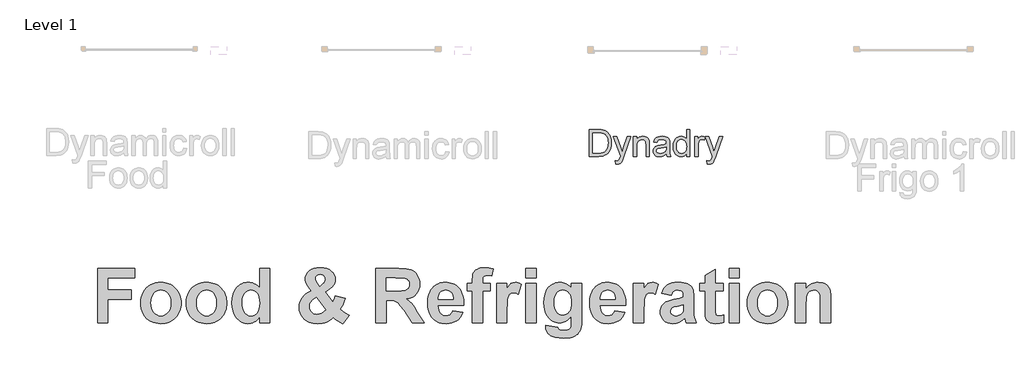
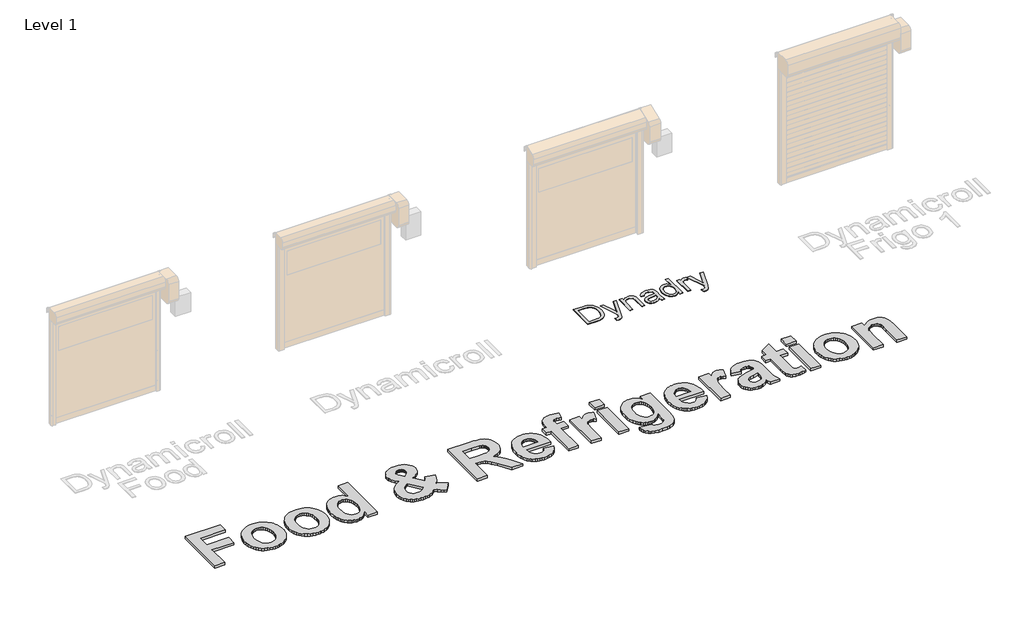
# One storey, part 3 of 17: 2 proxies.
"""IFC4 building model written with IfcOpenShell, lengths in millimetres."""

import ifcopenshell
import ifcopenshell.guid

model = None  # the IFC model being written
_history = None  # IfcOwnerHistory: only IFC2X3 demands one
_inside = {}  # id of a spatial element -> (the spatial element, [elements in it])
_under = {}  # id of a project, library or spatial element -> (it, [spatial elements below it])
_declared = {}  # id of a project -> (the project, [libraries it declares])
_typed = {}  # id of a type object -> (the type object, [elements of that type])
_made_of = {}  # id of a material, layer set ... -> (it, [elements and type objects made of it])


def new_model(schema):
    """Start an empty IFC model of exactly this schema.

    Asked for "IFC4X3", IfcOpenShell would pick the latest addendum, in which some entities
    have other attributes; the version numbers below select the first issue.
    IFC2X3 requires an IfcOwnerHistory on every rooted entity: one is made here for all.
    """
    global model, _history
    if schema == "IFC4X3":
        model = ifcopenshell.file(schema_version=(4, 3, 0, 0))
    else:
        model = ifcopenshell.file(schema=schema)
    _inside.clear()
    _under.clear()
    _declared.clear()
    _typed.clear()
    _made_of.clear()
    _history = None
    if model.schema == "IFC2X3":
        org = make("IfcOrganization", Name="unknown")
        user = make(
            "IfcPersonAndOrganization",
            ThePerson=make("IfcPerson", FamilyName="unknown"),
            TheOrganization=org,
        )
        app = make(
            "IfcApplication",
            ApplicationDeveloper=org,
            Version="unknown",
            ApplicationFullName="unknown",
            ApplicationIdentifier="unknown",
        )
        _history = make(
            "IfcOwnerHistory",
            OwningUser=user,
            OwningApplication=app,
            ChangeAction="ADDED",
            CreationDate=0,
        )
    return model


def make(cls, **values):
    """One entity of the class cls with the attributes given. An attribute that is None is left unset."""
    return model.create_entity(
        cls, **{name: value for name, value in values.items() if value is not None}
    )


def rooted(cls, **values):
    """An entity with a GlobalId (a new one), such as an element, a storey or a relation."""
    return make(cls, GlobalId=ifcopenshell.guid.new(), OwnerHistory=_history, **values)


def si_unit(unit_type, name, prefix=None):
    """IfcSIUnit, for example si_unit("LENGTHUNIT", "METRE", prefix="MILLI")."""
    return make("IfcSIUnit", UnitType=unit_type, Prefix=prefix, Name=name)


def assignment(units):
    """IfcUnitAssignment: the units of a project."""
    return None if units is None else make("IfcUnitAssignment", Units=units)


def point(xyz):
    """IfcCartesianPoint."""
    return None if xyz is None else make("IfcCartesianPoint", Coordinates=xyz)


def direction(xyz):
    """IfcDirection."""
    return None if xyz is None else make("IfcDirection", DirectionRatios=xyz)


def frame(location, z_axis=None, x_axis=None):
    """IfcAxis2Placement3D, a coordinate frame: its origin and axes. An axis left out is left unset."""
    return make(
        "IfcAxis2Placement3D",
        Location=point(location),
        Axis=direction(z_axis),
        RefDirection=direction(x_axis),
    )


def origin():
    """The frame at (0, 0, 0) with its axes left unset."""
    return frame((0.0, 0.0, 0.0))


def origin_with_axes():
    """The frame at (0, 0, 0) with the z axis (0, 0, 1) and the x axis (1, 0, 0) written out."""
    return frame((0.0, 0.0, 0.0), z_axis=(0.0, 0.0, 1.0), x_axis=(1.0, 0.0, 0.0))


def place(relative_to, where):
    """IfcLocalPlacement: puts the frame where relative to a parent placement (None: the world)."""
    return make(
        "IfcLocalPlacement", PlacementRelTo=relative_to, RelativePlacement=where
    )


def context(
    kind, dimensions, precision=None, world=None, true_north=None, identifier=None
):
    """IfcGeometricRepresentationContext, for example the 3D "Model" context."""
    return make(
        "IfcGeometricRepresentationContext",
        ContextIdentifier=identifier,
        ContextType=kind,
        CoordinateSpaceDimension=dimensions,
        Precision=precision,
        WorldCoordinateSystem=world,
        TrueNorth=true_north,
    )


def project(units=None, contexts=None):
    """IfcProject with its units and contexts."""
    return rooted(
        "IfcProject",
        Name="project",
        RepresentationContexts=contexts,
        UnitsInContext=assignment(units),
    )


def spatial(cls, under=None, at=None, **own):
    """A site, building, storey or space (cls), placed at a placement, below another one or the project."""
    s = rooted(cls, ObjectPlacement=at, **own)
    if under is not None:
        _under.setdefault(under.id(), (under, []))[1].append(s)
    return s


def polyline(points):
    """IfcPolyline through the points."""
    return make("IfcPolyline", Points=[point(p) for p in points])


def outline(outer, holes=None, kind="AREA"):
    """IfcArbitraryClosedProfileDef: a profile drawn as a closed curve; with holes, ...WithVoids."""
    if holes is None:
        return make("IfcArbitraryClosedProfileDef", ProfileType=kind, OuterCurve=outer)
    return make(
        "IfcArbitraryProfileDefWithVoids",
        ProfileType=kind,
        OuterCurve=outer,
        InnerCurves=holes,
    )


def extrude(swept, where, along, depth):
    """IfcExtrudedAreaSolid: the profile swept, set in the frame where, extruded along a direction by depth."""
    return make(
        "IfcExtrudedAreaSolid",
        SweptArea=swept,
        Position=where,
        ExtrudedDirection=direction(along),
        Depth=depth,
    )


def shape(context_of_items, identifier, shape_type, items):
    """IfcShapeRepresentation: the items that make up one representation, for example the "Body"."""
    return make(
        "IfcShapeRepresentation",
        ContextOfItems=context_of_items,
        RepresentationIdentifier=identifier,
        RepresentationType=shape_type,
        Items=items,
    )


def made_of(thing, what):
    """Note that an element or type object is made of a material, layer set ...; save() writes the relation."""
    if what is not None:
        _made_of.setdefault(what.id(), (what, []))[1].append(thing)
    return thing


def element(
    cls,
    number,
    at=None,
    inside=None,
    cuts=None,
    type_object=None,
    material=None,
    context=None,
    identifier="Body",
    shape_type=None,
    held_by="IfcProductDefinitionShape",
    body=None,
    shapes=None,
    **own,
):
    """One element of the class cls, such as IfcWall. Its Tag is "e" and its number.

    at: its placement. inside: the storey or other place that contains it. cuts: it is an
    opening in that element (IfcRelVoidsElement). A single representation is given by context,
    identifier, shape_type and body (its items); several are given by shapes. held_by: the class
    of the entity that holds the representations. save() writes the other relations.
    """
    e = rooted(cls, Tag="e%d" % number, ObjectPlacement=at, **own)
    if body is not None:
        shapes = [shape(context, identifier, shape_type, body)]
    if shapes is not None:
        e.Representation = make(held_by, Representations=shapes)
    if inside is not None:
        _inside.setdefault(inside.id(), (inside, []))[1].append(e)
    if cuts is not None:
        rooted(
            "IfcRelVoidsElement", RelatingBuildingElement=cuts, RelatedOpeningElement=e
        )
    if type_object is not None:
        _typed.setdefault(type_object.id(), (type_object, []))[1].append(e)
    return made_of(e, material)


def aggregate(whole, parts):
    """IfcRelAggregates: a whole, such as a stair, and the parts it consists of."""
    return rooted("IfcRelAggregates", RelatingObject=whole, RelatedObjects=parts)


def save(model, path):
    """Write the relations noted so far, then the file.

    IfcRelAggregates (storeys below a building ...), IfcRelContainedInSpatialStructure (elements
    in a storey), IfcRelDefinesByType, IfcRelAssociatesMaterial and IfcRelDeclares: one each for
    every whole, place, type object, material and project.
    """
    for whole, parts in _under.values():
        aggregate(whole, parts)
    for where, things in _inside.values():
        rooted(
            "IfcRelContainedInSpatialStructure",
            RelatedElements=things,
            RelatingStructure=where,
        )
    for kind, things in _typed.values():
        rooted("IfcRelDefinesByType", RelatedObjects=things, RelatingType=kind)
    for what, things in _made_of.values():
        rooted("IfcRelAssociatesMaterial", RelatedObjects=things, RelatingMaterial=what)
    for by, libraries in _declared.values():
        rooted("IfcRelDeclares", RelatingContext=by, RelatedDefinitions=libraries)
    model.write(path)


model = new_model("IFC4")

# Units and contexts
model_context = context("Model", 3, world=origin())
ifc_project = project(units=[si_unit("LENGTHUNIT", "METRE", prefix="MILLI")], contexts=[model_context])

# Site, building, storey
site = spatial("IfcSite", under=ifc_project)
building = spatial("IfcBuilding", under=site)
storey = spatial("IfcBuildingStorey", under=building, Name="Level 1", Elevation=0.0)

# Proxies
placement = place(None, origin())
element("IfcBuildingElementProxy", 1, Name="1000", ObjectType="1000", at=placement, inside=storey, context=model_context, shape_type="SweptSolid", body=[
    extrude(outline(polyline([(1161.4690724, 4455.5744837), (1161.4690724, 5475.8338837), (1857.8365994, 5475.8338837), (1857.8365994, 5297.6933535), (1355.8041962, 5297.6933535), (1355.8041962, 5070.9690424), (1793.0582248, 5070.9690424), (1793.0582248, 4892.8285123), (1355.8041962, 4892.8285123), (1355.8041962, 4455.5744837), (1161.4690724, 4455.5744837)])), origin_with_axes(), (0.0, 0.0, 1.0), 50.0),
    extrude(outline(polyline([(1971.1987549, 4838.6778397), (1974.1957037, 4887.2537132), (1983.1865498, 4935.05465), (1998.1712935, 4982.0806502), (2019.1499346, 5028.3317138), (2045.6163921, 5071.483031), (2077.0645849, 5109.2097919), (2113.4945131, 5141.5119965), (2154.9061766, 5168.3896448), (2200.0897255, 5189.5343438), (2247.8353097, 5204.6377002), (2298.1429293, 5213.699714), (2351.0125841, 5216.7203853), (2391.943866, 5215.008408), (2430.9812978, 5209.872476), (2468.1248793, 5201.3125895), (2503.3746107, 5189.3287483), (2536.7304919, 5173.9209526), (2568.1925229, 5155.0892022), (2597.7607037, 5132.8334972), (2625.4350343, 5107.1538376), (2650.491977, 5078.85679), (2672.207994, 5048.7489212), (2690.5830853, 5016.8302312), (2705.6172509, 4983.1007198), (2717.3104909, 4947.5603872), (2725.6628051, 4910.2092334), (2730.6741936, 4871.0472582), (2732.3446565, 4830.0744619), (2730.6564017, 4788.7833879), (2725.5916374, 4749.2991815), (2717.1503637, 4711.6218426), (2705.3325804, 4675.7513712), (2690.1382875, 4641.6877673), (2671.5674852, 4609.4310309), (2649.6201733, 4578.981162), (2624.296352, 4550.3381606), (2596.414449, 4524.3323159), (2566.7928925, 4501.7939172), (2535.4316823, 4482.7229645), (2502.3308185, 4467.1194577), (2467.4903011, 4454.9833969), (2430.9101301, 4446.314782), (2392.5903055, 4441.113613), (2352.5308273, 4439.3798901), (2302.3892656, 4442.2661336), (2253.4338314, 4450.924864), (2205.6645246, 4465.3560815), (2159.0813453, 4485.559786), (2115.8430455, 4511.3461971), (2078.1083771, 4542.5255344), (2045.8773401, 4579.0977979), (2019.1499346, 4621.0629876), (1998.1712935, 4668.1601554), (1983.1865498, 4720.1283534), (1974.1957037, 4776.9675815), (1971.1987549, 4838.6778397)]), holes=[polyline([(2165.5338787, 4828.0501377), (2168.8945732, 4772.6579851), (2178.9766567, 4724.1453718), (2195.7801291, 4682.5122977), (2219.3049905, 4647.758763), (2247.7641421, 4620.3592186), (2279.3704853, 4600.7881154), (2314.12402, 4589.0454535), (2352.0247462, 4585.1312329), (2389.9096574, 4589.0454535), (2424.6157471, 4600.7881154), (2456.1430151, 4620.3592186), (2484.4914615, 4647.758763), (2507.9056176, 4682.6071879), (2524.6300149, 4724.5249325), (2534.6646532, 4773.5119968), (2538.0095327, 4829.5683808), (2534.6646532, 4884.296302), (2524.6300149, 4932.3344643), (2507.9056176, 4973.6828678), (2484.4914615, 5008.3415123), (2456.1430151, 5035.7410567), (2424.6157471, 5055.3121599), (2389.9096574, 5067.0548218), (2352.0247462, 5070.9690424), (2314.12402, 5067.0548218), (2279.3704853, 5055.3121599), (2247.7641421, 5035.7410567), (2219.3049905, 5008.3415123), (2195.7801291, 4973.5879776), (2178.9766567, 4931.9549036), (2168.8945732, 4883.4422903), (2165.5338787, 4828.0501377)])]), origin_with_axes(), (0.0, 0.0, 1.0), 50.0),
    extrude(outline(polyline([(2829.5122184, 4838.6778397), (2832.5091671, 4887.2537132), (2841.5000133, 4935.05465), (2856.4847569, 4982.0806502), (2877.463398, 5028.3317138), (2903.9298555, 5071.483031), (2935.3780484, 5109.2097919), (2971.8079766, 5141.5119965), (3013.2196401, 5168.3896448), (3058.403189, 5189.5343438), (3106.1487732, 5204.6377002), (3156.4563927, 5213.699714), (3209.3260476, 5216.7203853), (3250.2573295, 5215.008408), (3289.2947612, 5209.872476), (3326.4383428, 5201.3125895), (3361.6880742, 5189.3287483), (3395.0439554, 5173.9209526), (3426.5059864, 5155.0892022), (3456.0741672, 5132.8334972), (3483.7484978, 5107.1538376), (3508.8054405, 5078.85679), (3530.5214575, 5048.7489212), (3548.8965488, 5016.8302312), (3563.9307144, 4983.1007198), (3575.6239543, 4947.5603872), (3583.9762686, 4910.2092334), (3588.9876571, 4871.0472582), (3590.6581199, 4830.0744619), (3588.9698652, 4788.7833879), (3583.9051009, 4749.2991815), (3575.4638271, 4711.6218426), (3563.6460438, 4675.7513712), (3548.451751, 4641.6877673), (3529.8809486, 4609.4310309), (3507.9336368, 4578.981162), (3482.6098154, 4550.3381606), (3454.7279125, 4524.3323159), (3425.1063559, 4501.7939172), (3393.7451458, 4482.7229645), (3360.644282, 4467.1194577), (3325.8037646, 4454.9833969), (3289.2235936, 4446.314782), (3250.903769, 4441.113613), (3210.8442907, 4439.3798901), (3160.702729, 4442.2661336), (3111.7472948, 4450.924864), (3063.9779881, 4465.3560815), (3017.3948088, 4485.559786), (2974.1565089, 4511.3461971), (2936.4218405, 4542.5255344), (2904.1908036, 4579.0977979), (2877.463398, 4621.0629876), (2856.4847569, 4668.1601554), (2841.5000133, 4720.1283534), (2832.5091671, 4776.9675815), (2829.5122184, 4838.6778397)]), holes=[polyline([(3023.8473422, 4828.0501377), (3027.2080367, 4772.6579851), (3037.2901201, 4724.1453718), (3054.0935925, 4682.5122977), (3077.6184539, 4647.758763), (3106.0776055, 4620.3592186), (3137.6839487, 4600.7881154), (3172.4374834, 4589.0454535), (3210.3382097, 4585.1312329), (3248.2231209, 4589.0454535), (3282.9292105, 4600.7881154), (3314.4564785, 4620.3592186), (3342.8049249, 4647.758763), (3366.2190811, 4682.6071879), (3382.9434783, 4724.5249325), (3392.9781167, 4773.5119968), (3396.3229961, 4829.5683808), (3392.9781167, 4884.296302), (3382.9434783, 4932.3344643), (3366.2190811, 4973.6828678), (3342.8049249, 5008.3415123), (3314.4564785, 5035.7410567), (3282.9292105, 5055.3121599), (3248.2231209, 5067.0548218), (3210.3382097, 5070.9690424), (3172.4374834, 5067.0548218), (3137.6839487, 5055.3121599), (3106.0776055, 5035.7410567), (3077.6184539, 5008.3415123), (3054.0935925, 4973.5879776), (3037.2901201, 4931.9549036), (3027.2080367, 4883.4422903), (3023.8473422, 4828.0501377)])]), origin_with_axes(), (0.0, 0.0, 1.0), 50.0),
    extrude(outline(polyline([(4400.3878024, 4455.5744837), (4206.0526786, 4455.5744837), (4206.0526786, 4562.8636666), (4183.3185689, 4533.6137634), (4158.6392101, 4508.3650634), (4132.0146023, 4487.1175667), (4103.4447454, 4469.8712734), (4073.8469114, 4456.5312932), (4044.1383722, 4447.0027359), (4014.3191277, 4441.2856015), (3984.3891781, 4439.3798901), (3954.3821301, 4440.9930234), (3925.4702731, 4445.8324235), (3897.6536072, 4453.8980902), (3870.9321323, 4465.1900237), (3845.3058484, 4479.7082239), (3820.7747556, 4497.4526907), (3774.998143, 4542.6204246), (3754.5670974, 4569.7076221), (3736.8601912, 4599.3489474), (3721.8774245, 4631.5444006), (3709.6187971, 4666.2939816), (3700.0843092, 4703.5976903), (3693.2739607, 4743.4555269), (3687.8256818, 4830.8335834), (3693.2660531, 4919.6824381), (3700.0665173, 4959.860529), (3709.5871671, 4997.2077291), (3721.8280025, 5031.7240384), (3736.7890236, 5063.4094567), (3754.4702303, 5092.2639842), (3774.8716227, 5118.2876207), (3797.3526919, 5141.3577999), (3821.2729291, 5161.3519552), (3846.6323343, 5178.2700866), (3873.4309075, 5192.1121941), (3901.6686487, 5202.8782777), (3931.3455578, 5210.5683375), (3962.461635, 5215.1823733), (3995.0168801, 5216.7203853), (4024.9942749, 5215.1270207), (4053.9436926, 5210.346927), (4081.8651331, 5202.3801042), (4108.7585965, 5191.2265523), (4134.6240827, 5176.8862712), (4159.4615918, 5159.3592611), (4206.0526786, 5114.7450534), (4206.0526786, 5475.8338837), (4400.3878024, 5475.8338837), (4400.3878024, 4455.5744837)]), holes=[polyline([(3882.1608056, 4842.2204071), (3884.1851298, 4785.0965084), (3890.2581025, 4736.4494673), (3900.3797235, 4696.2792839), (3914.5499929, 4664.585958), (3940.2810514, 4629.8245158), (3970.6617295, 4604.9949142), (4005.6920273, 4590.0971532), (4045.3719448, 4585.1312329), (4077.6346118, 4588.8556731), (4107.3668736, 4600.0289939), (4134.5687301, 4618.6511951), (4159.2401814, 4644.7222767), (4179.7206489, 4678.1947938), (4194.3495543, 4719.0213011), (4203.1268976, 4767.2017987), (4206.0526786, 4822.7362866), (4203.2138802, 4884.1539667), (4194.697485, 4936.3198526), (4180.5034931, 4979.2339443), (4160.6319043, 5012.8962417), (4136.3162912, 5038.303092), (4108.7902265, 5056.4508422), (4078.0537102, 5067.3394924), (4044.1067421, 5070.9690424), (4011.0849535, 5067.3790299), (3980.8466107, 5056.6089926), (3953.3917136, 5038.6589303), (3928.7202624, 5013.5288431), (3908.3505001, 4981.2819911), (3893.8006698, 4941.9816344), (3885.0707717, 4895.6277731), (3882.1608056, 4842.2204071)])]), origin_with_axes(), (0.0, 0.0, 1.0), 50.0),
    extrude(outline(polyline([(5890.2904183, 4596.7710971), (5767.3127227, 4439.3798901), (5721.6072778, 4463.1815145), (5676.8507348, 4491.0634174), (5633.0430937, 4523.0255989), (5590.1843547, 4559.0680587), (5559.6138962, 4530.3479591), (5528.1261657, 4505.6765078), (5495.7211634, 4485.053705), (5462.3988892, 4468.4795505), (5427.0206606, 4455.7484491), (5388.4477955, 4446.6548052), (5346.6802937, 4441.1986188), (5301.7181553, 4439.3798901), (5256.8509071, 4441.0800061), (5214.8619948, 4446.1803542), (5175.7514185, 4454.6809343), (5139.5191783, 4466.5817466), (5106.1652739, 4481.8827909), (5075.6897056, 4500.5840672), (5048.0924733, 4522.6855757), (5023.3735769, 4548.1873161), (4991.7118811, 4591.900067), (4969.0963841, 4638.7758244), (4955.5270859, 4688.8145883), (4951.0039865, 4742.0163589), (4954.5386464, 4790.6080474), (4965.1426259, 4836.6851456), (4982.8159251, 4880.2476536), (5007.5585441, 4921.2955714), (5039.3388526, 4959.7814539), (5078.1252207, 4995.6578559), (5123.9176483, 5028.9247775), (5176.7161355, 5059.5822187), (5127.7211637, 5118.3508809), (5092.5801607, 5174.2095769), (5071.4196468, 5227.1583069), (5066.1295183, 5252.5414347), (5064.3661421, 5277.1970709), (5068.9999467, 5320.4037407), (5082.9013606, 5360.1943634), (5106.0703838, 5396.568939), (5138.5070161, 5429.5274674), (5179.5153964, 5456.8716593), (5228.3996629, 5476.4032248), (5285.1598159, 5488.1221642), (5349.7958552, 5492.0284773), (5412.3522177, 5487.9719214), (5467.6811101, 5475.8022536), (5515.7825326, 5455.519474), (5556.656485, 5427.1235824), (5589.2591753, 5392.8761288), (5612.5468111, 5355.0386627), (5626.5193927, 5313.6111841), (5631.1769198, 5268.593693), (5628.7809424, 5239.1223793), (5621.5930099, 5210.4260022), (5609.6131225, 5182.5045617), (5592.8412802, 5155.3580578), (5568.7787077, 5127.7212878), (5534.9266299, 5098.3290493), (5491.2850467, 5067.181342), (5437.8539582, 5034.2781662), (5581.5809768, 4845.0038529), (5608.150232, 4895.8017384), (5630.6708388, 4960.1372921), (5814.3782605, 4919.650808), (5788.631387, 4839.5002214), (5766.5536011, 4784.2741267), (5745.5512375, 4744.9895851), (5723.0306307, 4712.6636579), (5761.9672416, 4680.5275111), (5810.9622134, 4645.354878), (5890.2904183, 4596.7710971)]), holes=[polyline([(5339.6742341, 5145.1099165), (5385.7276098, 5184.837279), (5408.0900663, 5207.0732152), (5424.0632495, 5229.2458913), (5433.6471594, 5251.3553072), (5436.841796, 5273.401463), (5435.2998303, 5291.193375), (5430.6739332, 5307.6251941), (5422.9641047, 5322.6969205), (5412.1703448, 5336.408554), (5398.7671044, 5347.8111926), (5383.2288346, 5355.9559346), (5365.5555354, 5360.8427797), (5345.7472068, 5362.4717281), (5326.4765892, 5361.0325601), (5309.4042613, 5356.7150561), (5294.5302228, 5349.5192162), (5281.854474, 5339.4450403), (5264.4895679, 5314.6470687), (5258.7012659, 5286.3065298), (5261.136781, 5267.5340858), (5268.4433261, 5246.895468), (5297.6695069, 5200.0197106), (5339.6742341, 5145.1099165)]), polyline([(5270.3411301, 4934.074118), (5240.940984, 4916.527339), (5215.4945961, 4897.2883515), (5194.0019665, 4876.3571555), (5176.463095, 4853.733751), (5162.8463517, 4830.1298145), (5153.1201065, 4806.2570224), (5147.2843594, 4782.1153747), (5145.3391103, 4757.7048715), (5147.7034578, 4728.1386676), (5154.7965, 4701.4349846), (5166.6182371, 4677.5938225), (5183.168669, 4656.6151814), (5203.6886741, 4639.5112234), (5227.4191309, 4627.2941105), (5254.3600394, 4619.9638428), (5284.5113995, 4617.5204202), (5325.5039647, 4621.9802595), (5364.9782867, 4635.3597773), (5405.4647709, 4658.9874364), (5449.4938223, 4694.1916995), (5270.3411301, 4934.074118)])]), origin_with_axes(), (0.0, 0.0, 1.0), 50.0),
    extrude(outline(polyline([(6392.3228214, 4455.5744837), (6392.3228214, 5475.8338837), (6821.4795531, 5475.8338837), (6896.9172599, 5474.1100451), (6961.2844436, 5468.9385293), (7014.5811044, 5460.3193364), (7056.8072421, 5448.2524664), (7091.6635745, 5431.7732021), (7122.8508193, 5409.9168267), (7150.3689765, 5382.6833401), (7174.2180461, 5350.0727423), (7193.4807561, 5313.4925713), (7207.2398347, 5274.350365), (7215.4952818, 5232.6461234), (7218.2470976, 5188.3798464), (7214.2696168, 5133.2011967), (7202.3371745, 5083.0517275), (7182.4497707, 5037.9314388), (7154.6074053, 4997.8403305), (7118.8417085, 4963.7431196), (7075.1843103, 4936.6045232), (7023.6352107, 4916.4245413), (6964.1944097, 4903.2031738), (7020.5591868, 4862.5901694), (7066.1697416, 4818.1815572), (7113.3617996, 4753.8460035), (7174.4710866, 4653.4521749), (7299.2200658, 4455.5744837), (7072.2427142, 4455.5744837), (6924.4670471, 4688.624808), (6853.0779888, 4778.1062639), (6808.4479661, 4826.9114553), (6776.2485591, 4850.9186752), (6742.1513483, 4866.0062165), (6696.8887242, 4873.9769931), (6631.1930777, 4876.6339186), (6586.6579452, 4876.6339186), (6586.6579452, 4455.5744837), (6392.3228214, 4455.5744837)]), holes=[polyline([(6586.6579452, 5054.7744488), (6746.832598, 5054.7744488), (6873.2579707, 5057.7160449), (6914.5747441, 5061.39304), (6941.2942421, 5066.5408332), (6975.897534, 5082.5456465), (7002.0239683, 5107.0273173), (7011.5999707, 5122.2809165), (7018.4399724, 5139.3216144), (7023.9119738, 5178.7643064), (7022.10906, 5201.7672717), (7016.7003188, 5222.4454272), (7007.68575, 5240.7987728), (6995.0653538, 5256.8273086), (6979.1554308, 5270.3254391), (6960.2722815, 5281.087569), (6938.4159061, 5289.1136982), (6913.5863045, 5294.4038267), (6755.6890164, 5297.6933535), (6586.6579452, 5297.6933535), (6586.6579452, 5054.7744488)])]), origin_with_axes(), (0.0, 0.0, 1.0), 50.0),
    extrude(outline(polyline([(7833.6416563, 4682.2987948), (8027.9767801, 4649.9096075), (8006.9744164, 4601.4918844), (7980.6582017, 4559.2262091), (7949.028136, 4523.1125815), (7912.0842193, 4493.1510018), (7870.0004168, 4469.6261404), (7822.950694, 4452.822668), (7770.935051, 4442.7405845), (7713.9534876, 4439.3798901), (7668.4180542, 4441.3607229), (7625.9428297, 4447.3032215), (7586.527814, 4457.2073858), (7550.1730073, 4471.0732159), (7516.8784093, 4488.9007117), (7486.6440203, 4510.6898732), (7459.46984, 4536.4407005), (7435.3558687, 4566.1531935), (7404.1369938, 4620.2247908), (7381.8377975, 4680.970332), (7368.4582797, 4748.3898171), (7363.9984404, 4822.4832461), (7369.9132627, 4909.8454876), (7377.3067906, 4949.7784456), (7387.6577296, 4987.2126284), (7400.9660797, 5022.148036), (7417.231841, 5054.5846684), (7436.4550135, 5084.5225256), (7458.6355971, 5111.9616076), (7483.0777303, 5136.5144461), (7509.0855519, 5157.7935728), (7536.6590617, 5175.7989877), (7565.7982597, 5190.5306908), (7596.503146, 5201.9886821), (7628.7737206, 5210.1729617), (7662.6099834, 5215.0835294), (7698.0119344, 5216.7203853), (7737.5534704, 5215.040038), (7774.9520693, 5209.9989963), (7810.2077313, 5201.5972601), (7843.3204564, 5189.8348294), (7874.2902445, 5174.7117042), (7903.1170956, 5156.2278846), (7929.8010098, 5134.3833704), (7954.3419871, 5109.1781618), (7976.2813914, 5080.5015535), (7995.1605869, 5048.2428402), (8010.9795735, 5012.402022), (8023.7383513, 4972.9790988), (8033.4369202, 4929.9740707), (8040.0752802, 4883.3869376), (8043.6534314, 4833.2176996), (8044.1713737, 4779.4663567), (7558.3335642, 4779.4663567), (7561.9552067, 4735.9750163), (7570.7958101, 4697.6077466), (7584.8553743, 4664.3645475), (7604.1338994, 4636.2454191), (7627.3661827, 4613.8829626), (7653.2870215, 4597.9097795), (7681.896416, 4588.3258695), (7713.194366, 4585.1312329), (7753.9971508, 4590.8879049), (7771.7890627, 4598.0837448), (7787.8413211, 4608.1579208), (7802.0906657, 4621.4267333), (7814.4738364, 4638.2064832), (7833.6416563, 4682.2987948)]), holes=[polyline([(7849.8362499, 4892.8285123), (7846.3727577, 4933.860615), (7838.0066053, 4969.6579419), (7824.7377928, 5000.2204929), (7806.56632, 5025.548268), (7784.8364649, 5045.4198568), (7760.8925051, 5059.6138488), (7734.7344407, 5068.130244), (7706.3622718, 5070.9690424), (7676.2188192, 5067.9800012), (7648.7955522, 5059.0128776), (7624.0924709, 5044.0676715), (7602.1095752, 5023.144383), (7584.206958, 4996.9705036), (7571.4916716, 4966.5265654), (7563.9637159, 4931.8125683), (7561.623091, 4892.8285123), (7849.8362499, 4892.8285123)])]), origin_with_axes(), (0.0, 0.0, 1.0), 50.0),
    extrude(outline(polyline([(8108.9497483, 5200.5257916), (8206.1173102, 5200.5257916), (8206.1173102, 5254.9295047), (8211.0516005, 5334.4474899), (8217.2194633, 5365.5240295), (8225.8544712, 5390.812267), (8237.794821, 5412.1704689), (8253.8787095, 5431.4569015), (8274.1061365, 5448.6715647), (8298.4771021, 5463.8144587), (8326.6753057, 5476.1580918), (8358.3844466, 5484.9749727), (8393.6045248, 5490.2651011), (8432.3355403, 5492.0284773), (8514.4471909, 5485.9555047), (8594.7875578, 5467.7365868), (8570.4956673, 5335.3963919), (8524.5055518, 5343.5569488), (8480.1601996, 5346.2771345), (8443.6274737, 5341.4061043), (8429.8446726, 5335.3173167), (8419.0509127, 5326.793014), (8410.9140783, 5314.8052191), (8405.1020537, 5298.3259548), (8400.452434, 5251.8930183), (8400.452434, 5200.5257916), (8546.2037769, 5200.5257916), (8546.2037769, 5054.7744488), (8400.452434, 5054.7744488), (8400.452434, 4455.5744837), (8206.1173102, 4455.5744837), (8206.1173102, 5054.7744488), (8108.9497483, 5054.7744488), (8108.9497483, 5200.5257916)])), origin_with_axes(), (0.0, 0.0, 1.0), 50.0),
    extrude(outline(polyline([(8853.9010562, 4455.5744837), (8659.5659324, 4455.5744837), (8659.5659324, 5200.5257916), (8853.9010562, 5200.5257916), (8853.9010562, 5096.779176), (8894.9568815, 5157.7935728), (8913.8242157, 5178.835474), (8931.5844976, 5193.5671772), (8968.4018941, 5210.9320832), (9010.0270606, 5216.7203853), (9040.6291492, 5214.1583499), (9070.6935267, 5206.472244), (9100.220193, 5193.6620673), (9129.2091483, 5175.7278201), (9072.5280705, 4990.7551957), (9025.7155732, 5014.477745), (9003.6377874, 5020.4083824), (8982.4456433, 5022.3852615), (8945.0905357, 5016.85), (8928.7615143, 5009.9309231), (8913.9981811, 5000.2442155), (8900.7609986, 4986.9516803), (8889.0104292, 4969.215121), (8869.9691296, 4920.4099296), (8862.9393475, 4883.6557932), (8857.9180746, 4831.086624), (8853.9010562, 4678.5031869), (8853.9010562, 4455.5744837)])), origin_with_axes(), (0.0, 0.0, 1.0), 50.0),
    extrude(outline(polyline([(9210.1821165, 5297.6933535), (9210.1821165, 5475.8338837), (9404.5172403, 5475.8338837), (9404.5172403, 5297.6933535), (9210.1821165, 5297.6933535)])), origin_with_axes(), (0.0, 0.0, 1.0), 50.0),
    extrude(outline(polyline([(9210.1821165, 4455.5744837), (9210.1821165, 5200.5257916), (9404.5172403, 5200.5257916), (9404.5172403, 4455.5744837), (9210.1821165, 4455.5744837)])), origin_with_axes(), (0.0, 0.0, 1.0), 50.0),
    extrude(outline(polyline([(9582.6577705, 4406.9907028), (9809.3820816, 4374.6015155), (9818.0487196, 4346.007936), (9833.4209315, 4328.0420587), (9848.4293977, 4320.0712821), (9867.1385816, 4314.3778703), (9915.6591024, 4309.8231409), (9949.3451224, 4311.2623088), (9978.5396731, 4315.5798128), (10003.2427544, 4322.7756528), (10023.4543664, 4332.8498287), (10044.5832503, 4353.0298106), (10059.8922021, 4382.6988123), (10066.3447355, 4417.6184048), (10068.49558, 4473.2873205), (10068.49558, 4581.8417061), (10043.9466952, 4552.2478258), (10018.3777408, 4526.5997963), (9991.7887168, 4504.8976174), (9964.1796232, 4487.1412893), (9935.55046, 4473.3308118), (9905.9012271, 4463.4661851), (9875.2319247, 4457.5474091), (9843.5425526, 4455.5744837), (9808.5478386, 4457.5553166), (9775.427206, 4463.4978152), (9744.1806548, 4473.4019795), (9714.8081851, 4487.2678096), (9687.3097967, 4505.0953054), (9661.6854897, 4526.8844669), (9637.9352641, 4552.6352941), (9616.0591199, 4582.3477871), (9587.2757601, 4635.5179276), (9566.7162174, 4694.8243008), (9554.3804917, 4760.2669068), (9550.2685832, 4831.8457455), (9555.6536019, 4919.9433861), (9562.3848752, 4959.8466909), (9571.8086579, 4996.9863187), (9583.92495, 5031.3622695), (9598.7337514, 5062.9745433), (9616.2350621, 5091.8231401), (9636.4288822, 5117.9080599), (9682.1422347, 5161.1384523), (9706.9738132, 5178.1218207), (9733.1219931, 5192.0173039), (9760.5867746, 5202.824902), (9789.3681575, 5210.5446149), (9819.4661419, 5215.1764427), (9850.8807278, 5216.7203853), (9883.1750249, 5214.8897952), (9914.014339, 5209.398025), (9943.39867, 5200.2450748), (9971.3280181, 5187.4309444), (9997.8023831, 5170.9556339), (10022.8217651, 5150.8191433), (10046.386164, 5127.0214726), (10068.49558, 5099.5626218), (10068.49558, 5200.5257916), (10262.8307038, 5200.5257916), (10262.8307038, 4538.8248167), (10257.5484828, 4424.92495), (10250.9457066, 4380.2870198), (10241.7018199, 4343.8570916), (10230.0777707, 4313.2787255), (10216.3345072, 4286.1954818), (10200.4720292, 4262.6073602), (10182.4903368, 4242.514361), (10161.851719, 4225.1573624), (10138.0184644, 4209.777243), (10080.7680455, 4184.9476414), (10046.8368925, 4175.8144599), (10008.6831257, 4169.2907588), (9919.7077508, 4164.071798), (9834.4172786, 4167.9622961), (9762.5063242, 4179.6337903), (9703.9748876, 4199.0862808), (9679.7264884, 4211.7303995), (9658.8229687, 4226.3197673), (9625.1685788, 4259.5313364), (9601.1297289, 4296.918074), (9586.7064189, 4338.4799804), (9581.8986489, 4384.2170554), (9582.6577705, 4406.9907028)]), holes=[polyline([(9744.603707, 4839.1839208), (9747.4108753, 4781.5855711), (9755.8323803, 4732.2742986), (9769.868222, 4691.2501034), (9789.5184003, 4658.5129854), (9813.2963022, 4633.4936034), (9839.7153146, 4615.6226163), (9868.7754375, 4604.900024), (9900.4766709, 4601.3258266), (9934.4078239, 4604.9949142), (9965.6029762, 4616.0021771), (9994.0621278, 4634.3476152), (10019.7852788, 4660.0312285), (10041.0960355, 4692.9106819), (10056.3180047, 4732.8436398), (10065.4511862, 4779.8301025), (10068.49558, 4833.8700697), (10065.5777064, 4890.2111243), (10056.8240857, 4938.7869978), (10042.2347179, 4979.5976901), (10021.809603, 5012.6432012), (9996.9246488, 5038.1607567), (9968.9557631, 5056.3875821), (9937.9029461, 5067.3236773), (9903.7661977, 5070.9690424), (9870.6257963, 5067.394845), (9840.5376963, 5056.6722527), (9813.5018976, 5038.8012656), (9789.5184003, 5013.7818836), (9769.868222, 4981.4243263), (9755.8323803, 4941.5388135), (9747.4108753, 4894.125345), (9744.603707, 4839.1839208)])]), origin_with_axes(), (0.0, 0.0, 1.0), 50.0),
    extrude(outline(polyline([(10878.2252625, 4682.2987948), (11072.5603863, 4649.9096075), (11051.5580226, 4601.4918844), (11025.241808, 4559.2262091), (10993.6117422, 4523.1125815), (10956.6678255, 4493.1510018), (10914.584023, 4469.6261404), (10867.5343003, 4452.822668), (10815.5186572, 4442.7405845), (10758.5370938, 4439.3798901), (10713.0016604, 4441.3607229), (10670.5264359, 4447.3032215), (10631.1114203, 4457.2073858), (10594.7566135, 4471.0732159), (10561.4620155, 4488.9007117), (10531.2276265, 4510.6898732), (10504.0534463, 4536.4407005), (10479.9394749, 4566.1531935), (10448.7206, 4620.2247908), (10426.4214037, 4680.970332), (10413.0418859, 4748.3898171), (10408.5820466, 4822.4832461), (10414.4968689, 4909.8454876), (10421.8903968, 4949.7784456), (10432.2413358, 4987.2126284), (10445.5496859, 5022.148036), (10461.8154472, 5054.5846684), (10481.0386197, 5084.5225256), (10503.2192033, 5111.9616076), (10527.6613366, 5136.5144461), (10553.6691581, 5157.7935728), (10581.2426679, 5175.7989877), (10610.3818659, 5190.5306908), (10641.0867522, 5201.9886821), (10673.3573268, 5210.1729617), (10707.1935896, 5215.0835294), (10742.5955407, 5216.7203853), (10782.1370766, 5215.040038), (10819.5356755, 5209.9989963), (10854.7913375, 5201.5972601), (10887.9040626, 5189.8348294), (10918.8738507, 5174.7117042), (10947.7007018, 5156.2278846), (10974.384616, 5134.3833704), (10998.9255933, 5109.1781618), (11020.8649976, 5080.5015535), (11039.7441931, 5048.2428402), (11055.5631797, 5012.402022), (11068.3219575, 4972.9790988), (11078.0205264, 4929.9740707), (11084.6588864, 4883.3869376), (11088.2370376, 4833.2176996), (11088.7549799, 4779.4663567), (10602.9171704, 4779.4663567), (10606.538813, 4735.9750163), (10615.3794163, 4697.6077466), (10629.4389805, 4664.3645475), (10648.7175056, 4636.2454191), (10671.9497889, 4613.8829626), (10697.8706277, 4597.9097795), (10726.4800222, 4588.3258695), (10757.7779722, 4585.1312329), (10798.580757, 4590.8879049), (10816.372669, 4598.0837448), (10832.4249273, 4608.1579208), (10846.6742719, 4621.4267333), (10859.0574427, 4638.2064832), (10878.2252625, 4682.2987948)]), holes=[polyline([(10894.4198561, 4892.8285123), (10890.9563639, 4933.860615), (10882.5902116, 4969.6579419), (10869.321399, 5000.2204929), (10851.1499262, 5025.548268), (10829.4200711, 5045.4198568), (10805.4761113, 5059.6138488), (10779.318047, 5068.130244), (10750.945878, 5070.9690424), (10720.8024254, 5067.9800012), (10693.3791584, 5059.0128776), (10668.6760771, 5044.0676715), (10646.6931814, 5023.144383), (10628.7905642, 4996.9705036), (10616.0752778, 4966.5265654), (10608.5473221, 4931.8125683), (10606.2066973, 4892.8285123), (10894.4198561, 4892.8285123)])]), origin_with_axes(), (0.0, 0.0, 1.0), 50.0),
    extrude(outline(polyline([(11428.8414466, 4455.5744837), (11234.5063228, 4455.5744837), (11234.5063228, 5200.5257916), (11428.8414466, 5200.5257916), (11428.8414466, 5096.779176), (11469.8972719, 5157.7935728), (11488.7646061, 5178.835474), (11506.524888, 5193.5671772), (11543.3422845, 5210.9320832), (11584.967451, 5216.7203853), (11615.5695396, 5214.1583499), (11645.6339171, 5206.472244), (11675.1605834, 5193.6620673), (11704.1495386, 5175.7278201), (11647.4684609, 4990.7551957), (11600.6559636, 5014.477745), (11578.5781777, 5020.4083824), (11557.3860337, 5022.3852615), (11520.0309261, 5016.85), (11503.7019046, 5009.9309231), (11488.9385715, 5000.2442155), (11475.701389, 4986.9516803), (11463.9508195, 4969.215121), (11444.90952, 4920.4099296), (11437.8797379, 4883.6557932), (11432.8584649, 4831.086624), (11428.8414466, 4678.5031869), (11428.8414466, 4455.5744837)])), origin_with_axes(), (0.0, 0.0, 1.0), 50.0),
    extrude(outline(polyline([(11947.0684434, 4973.8014805), (11768.9279132, 5006.1906678), (11785.6681255, 5056.355952), (11807.5482235, 5099.5626218), (11834.5682071, 5135.8106771), (11866.7280765, 5165.100118), (11905.6567798, 5187.6839849), (11952.9832657, 5203.8153184), (12008.707534, 5213.4941186), (12072.8295847, 5216.7203853), (12130.9814605, 5214.7672287), (12181.1941899, 5208.907759), (12223.4677727, 5199.1419762), (12257.8022091, 5185.4698803), (12285.9213375, 5168.8008357), (12309.5489966, 5150.0442067), (12328.6851863, 5129.1999934), (12343.3299068, 5106.2681958), (12354.1790193, 5077.271333), (12361.9283854, 5038.2319244), (12366.5780051, 4989.1499699), (12368.1278783, 4930.0254695), (12368.1278783, 4700.2646721), (12370.6899136, 4614.9900149), (12378.3760196, 4555.5254914), (12393.0840002, 4507.2580111), (12416.7116592, 4455.5744837), (12222.3765354, 4455.5744837), (12204.1576176, 4517.316372), (12197.3255234, 4541.861303), (12147.0337189, 4497.10476), (12093.3258673, 4465.0635034), (12065.1592938, 4453.8269226), (12036.0754483, 4445.8007934), (12006.074331, 4440.9851159), (11975.1559418, 4439.3798901), (11922.6737552, 4443.2782957), (11876.0589458, 4454.9735125), (11835.3115137, 4474.4655405), (11800.4314587, 4501.7543797), (11772.4783881, 4534.9896712), (11752.5119091, 4572.3210563), (11740.5320217, 4613.7485349), (11736.5387259, 4659.272107), (11738.3179171, 4689.9216406), (11743.6554907, 4718.8631508), (11752.5514467, 4746.0966374), (11765.0057851, 4771.6221004), (11780.6705751, 4794.8543837), (11799.1978861, 4815.208331), (11820.5877181, 4832.6839423), (11844.840071, 4847.2812176), (11907.5308612, 4871.8894087), (11992.8687786, 4893.0815528), (12103.3842282, 4918.0693047), (12173.7927545, 4941.4122932), (12173.7927545, 4961.9085758), (12172.2824189, 4989.2685826), (12167.7514119, 5012.3901607), (12160.1997337, 5031.2733099), (12149.6273843, 5045.9180304), (12134.8798661, 5056.8778481), (12114.8026819, 5064.7062894), (12089.3958316, 5069.4033542), (12058.6593153, 5070.9690424), (12018.3626115, 5065.5919312), (12001.9624225, 5058.8705423), (11988.0610086, 5049.4605977), (11976.0099535, 5036.6662361), (11965.160841, 5019.7915961), (11947.0684434, 4973.8014805)]), holes=[polyline([(12173.7927545, 4795.6609504), (12064.2262068, 4768.7121344), (12002.231278, 4753.2450322), (11966.0464828, 4737.9677105), (11950.6584559, 4724.9835685), (11939.667008, 4710.323033), (11933.0721393, 4693.9861041), (11930.8738497, 4675.9727817), (11932.6372259, 4658.1255171), (11937.9273544, 4641.5276401), (11946.7442352, 4626.1791507), (11959.0878684, 4612.0800489), (11974.1516872, 4600.2899419), (11991.1291249, 4591.8684369), (12010.0201817, 4586.8155339), (12030.8248574, 4585.1312329), (12054.9427825, 4587.092297), (12078.4597364, 4592.9754892), (12101.375719, 4602.7808096), (12123.6907304, 4616.5082581), (12150.8925869, 4642.950993), (12166.7076198, 4674.707579), (12172.0214708, 4707.413067), (12173.7927545, 4760.4883173), (12173.7927545, 4795.6609504)])]), origin_with_axes(), (0.0, 0.0, 1.0), 50.0),
    extrude(outline(polyline([(12918.7440624, 5200.5257916), (12918.7440624, 5054.7744488), (12772.9927195, 5054.7744488), (12772.9927195, 4735.1842647), (12774.0997718, 4658.4813553), (12777.4209287, 4622.2016699), (12784.6642138, 4607.5253194), (12797.5376505, 4595.6324147), (12814.9341867, 4587.7565284), (12835.7467699, 4585.1312329), (12874.2089299, 4589.8124826), (12926.8413592, 4603.8562318), (12934.938656, 4465.6961047), (12898.6115256, 4454.1827608), (12859.9754003, 4445.9589437), (12819.0302802, 4441.0246535), (12775.7761653, 4439.3798901), (12724.0293778, 4443.9346195), (12677.5964413, 4457.5988079), (12639.6719925, 4478.4746513), (12613.450668, 4504.6643457), (12596.1490221, 4538.6350363), (12584.9836089, 4582.8538682), (12580.239099, 4635.6760779), (12578.6575957, 4724.3035221), (12578.6575957, 5054.7744488), (12481.4900338, 5054.7744488), (12481.4900338, 5200.5257916), (12578.6575957, 5200.5257916), (12578.6575957, 5346.2771345), (12772.9927195, 5459.63929), (12772.9927195, 5200.5257916), (12918.7440624, 5200.5257916)])), origin_with_axes(), (0.0, 0.0, 1.0), 50.0),
    extrude(outline(polyline([(13032.1062179, 5297.6933535), (13032.1062179, 5475.8338837), (13226.4413418, 5475.8338837), (13226.4413418, 5297.6933535), (13032.1062179, 5297.6933535)])), origin_with_axes(), (0.0, 0.0, 1.0), 50.0),
    extrude(outline(polyline([(13032.1062179, 4455.5744837), (13032.1062179, 5200.5257916), (13226.4413418, 5200.5257916), (13226.4413418, 4455.5744837), (13032.1062179, 4455.5744837)])), origin_with_axes(), (0.0, 0.0, 1.0), 50.0),
    extrude(outline(polyline([(13372.1926846, 4838.6778397), (13375.1896333, 4887.2537132), (13384.1804795, 4935.05465), (13399.1652231, 4982.0806502), (13420.1438642, 5028.3317138), (13446.6103217, 5071.483031), (13478.0585146, 5109.2097919), (13514.4884428, 5141.5119965), (13555.9001063, 5168.3896448), (13601.0836552, 5189.5343438), (13648.8292394, 5204.6377002), (13699.1368589, 5213.699714), (13752.0065138, 5216.7203853), (13792.9377957, 5215.008408), (13831.9752275, 5209.872476), (13869.118809, 5201.3125895), (13904.3685404, 5189.3287483), (13937.7244216, 5173.9209526), (13969.1864526, 5155.0892022), (13998.7546334, 5132.8334972), (14026.428964, 5107.1538376), (14051.4859067, 5078.85679), (14073.2019237, 5048.7489212), (14091.577015, 5016.8302312), (14106.6111806, 4983.1007198), (14118.3044205, 4947.5603872), (14126.6567348, 4910.2092334), (14131.6681233, 4871.0472582), (14133.3385862, 4830.0744619), (14131.6503314, 4788.7833879), (14126.5855671, 4749.2991815), (14118.1442933, 4711.6218426), (14106.32651, 4675.7513712), (14091.1322172, 4641.6877673), (14072.5614149, 4609.4310309), (14050.614103, 4578.981162), (14025.2902816, 4550.3381606), (13997.4083787, 4524.3323159), (13967.7868222, 4501.7939172), (13936.425612, 4482.7229645), (13903.3247482, 4467.1194577), (13868.4842308, 4454.9833969), (13831.9040598, 4446.314782), (13793.5842352, 4441.113613), (13753.524757, 4439.3798901), (13703.3831953, 4442.2661336), (13654.427761, 4450.924864), (13606.6584543, 4465.3560815), (13560.075275, 4485.559786), (13516.8369752, 4511.3461971), (13479.1023067, 4542.5255344), (13446.8712698, 4579.0977979), (13420.1438642, 4621.0629876), (13399.1652231, 4668.1601554), (13384.1804795, 4720.1283534), (13375.1896333, 4776.9675815), (13372.1926846, 4838.6778397)]), holes=[polyline([(13566.5278084, 4828.0501377), (13569.8885029, 4772.6579851), (13579.9705863, 4724.1453718), (13596.7740588, 4682.5122977), (13620.2989201, 4647.758763), (13648.7580718, 4620.3592186), (13680.3644149, 4600.7881154), (13715.1179497, 4589.0454535), (13753.0186759, 4585.1312329), (13790.9035871, 4589.0454535), (13825.6096767, 4600.7881154), (13857.1369447, 4620.3592186), (13885.4853912, 4647.758763), (13908.8995473, 4682.6071879), (13925.6239446, 4724.5249325), (13935.6585829, 4773.5119968), (13939.0034624, 4829.5683808), (13935.6585829, 4884.296302), (13925.6239446, 4932.3344643), (13908.8995473, 4973.6828678), (13885.4853912, 5008.3415123), (13857.1369447, 5035.7410567), (13825.6096767, 5055.3121599), (13790.9035871, 5067.0548218), (13753.0186759, 5070.9690424), (13715.1179497, 5067.0548218), (13680.3644149, 5055.3121599), (13648.7580718, 5035.7410567), (13620.2989201, 5008.3415123), (13596.7740588, 4973.5879776), (13579.9705863, 4931.9549036), (13569.8885029, 4883.4422903), (13566.5278084, 4828.0501377)])]), origin_with_axes(), (0.0, 0.0, 1.0), 50.0),
    extrude(outline(polyline([(14943.0682687, 4455.5744837), (14748.7331449, 4455.5744837), (14748.7331449, 4838.4247992), (14745.6966586, 4938.6288474), (14741.9010507, 4972.599538), (14736.5871996, 4995.8160063), (14720.5823864, 5027.5093321), (14696.8598371, 5051.2318814), (14666.5582341, 5066.0347522), (14630.8162598, 5070.9690424), (14606.6587972, 5069.2056662), (14583.7823521, 5063.9155378), (14562.1869247, 5055.0986569), (14541.872515, 5042.7550238), (14523.7484874, 5027.4935171), (14508.7242062, 5009.9230156), (14496.7996714, 4990.0435193), (14487.974883, 4967.8550282), (14481.6093323, 4939.5698419), (14477.0625104, 4901.4002601), (14473.4250528, 4795.4079098), (14473.4250528, 4455.5744837), (14279.089929, 4455.5744837), (14279.089929, 5200.5257916), (14473.4250528, 5200.5257916), (14473.4250528, 5093.2366087), (14497.2622611, 5122.1781188), (14522.59399, 5147.2607609), (14549.4202395, 5168.484535), (14577.7410096, 5185.8494411), (14607.5563003, 5199.3554792), (14638.8661116, 5209.0026492), (14671.6704435, 5214.7909513), (14705.969296, 5216.7203853), (14765.0542588, 5210.837193), (14792.604046, 5203.4832028), (14818.8253705, 5193.1876164), (14863.7400638, 5166.4285808), (14881.5477908, 5150.6293629), (14896.2557714, 5133.2170118), (14918.5549677, 5094.343661), (14932.8201274, 5050.5992801), (14940.5062333, 4994.3926533), (14943.0682687, 4918.1325648), (14943.0682687, 4455.5744837)])), origin_with_axes(), (0.0, 0.0, 1.0), 50.0),
])
element("IfcBuildingElementProxy", 2, Name="500mm", ObjectType="500mm", at=placement, inside=storey, context=model_context, shape_type="SweptSolid", body=[
    extrude(outline(polyline([(10402.5904997, 7588.4925899), (10402.5904997, 8090.7741406), (10575.8629195, 8090.7741406), (10627.6423103, 8088.9653875), (10665.5034989, 8083.539128), (10705.5413228, 8069.590269), (10739.3251526, 8047.6093198), (10757.9415144, 8029.6444157), (10774.0593444, 8009.3495923), (10787.6786424, 7986.7248496), (10798.7994085, 7961.7701876), (10813.6066588, 7905.7908107), (10818.5424089, 7842.3311665), (10815.2008142, 7788.4211258), (10805.1760298, 7740.9796769), (10789.908927, 7700.5892995), (10770.8403769, 7667.8324735), (10748.8900845, 7641.9734349), (10724.9777548, 7622.2764197), (10697.5245609, 7607.6684389), (10664.951676, 7597.0765031), (10627.1977862, 7590.6385682), (10584.201578, 7588.4925899), (10402.5904997, 7588.4925899)]), holes=[polyline([(10465.3756936, 7651.2777837), (10576.4760561, 7651.2777837), (10622.4306487, 7653.5463893), (10657.2874677, 7660.3522062), (10683.5910304, 7671.2966956), (10703.8858538, 7685.9813186), (10725.6981904, 7713.158601), (10742.0842676, 7748.3373168), (10752.3389782, 7791.6707501), (10755.7572151, 7843.3121852), (10754.0825856, 7879.7631595), (10749.0586971, 7911.7382363), (10740.6855496, 7939.2374154), (10728.9631431, 7962.260697), (10714.8418394, 7981.329247), (10699.2720004, 7996.9642318), (10682.253626, 8009.1656513), (10663.7867163, 8017.9335056), (10627.6729671, 8025.4750865), (10574.7592735, 8027.9889468), (10465.3756936, 8027.9889468), (10465.3756936, 7651.2777837)])]), origin_with_axes(), (0.0, 0.0, 1.0), 5.0),
    extrude(outline(polyline([(10897.0239012, 7447.2259037), (10889.175752, 7507.6811782), (10921.0588583, 7502.1629483), (10937.8281459, 7503.8950594), (10950.8572999, 7509.0913926), (10961.0047116, 7517.3840659), (10969.1287723, 7528.4051973), (10986.2965987, 7574.6357014), (10991.201692, 7589.8414905), (10857.7831551, 7957.3556037), (10924.0019142, 7957.3556037), (10994.7578846, 7752.5679597), (11019.4059783, 7670.6529021), (11044.054072, 7743.0030278), (11116.7720797, 7957.3556037), (11182.5003295, 7957.3556037), (11054.1095132, 7579.663422), (11020.754879, 7497.7483644), (11003.679023, 7471.5980859), (10984.3345614, 7453.4798976), (10961.8631029, 7442.9032903), (10935.4062561, 7439.3777545), (10917.2267541, 7441.3397918), (10897.0239012, 7447.2259037)])), origin_with_axes(), (0.0, 0.0, 1.0), 5.0),
    extrude(outline(polyline([(11234.4943182, 7588.4925899), (11234.4943182, 7957.3556037), (11297.279512, 7957.3556037), (11297.279512, 7905.8521244), (11319.0918486, 7931.8184619), (11345.2881124, 7950.3658458), (11375.8683032, 7961.4942761), (11410.8324212, 7965.2037529), (11441.780494, 7962.2147117), (11470.1227361, 7953.2475881), (11493.7591543, 7939.4213564), (11510.5897555, 7921.8549911), (11522.0094258, 7900.5944775), (11529.413051, 7875.6858008), (11532.7239889, 7814.9852715), (11532.7239889, 7588.4925899), (11469.9387951, 7588.4925899), (11469.9387951, 7806.5239857), (11468.1300419, 7838.9895717), (11462.7037825, 7862.0741669), (11452.6943265, 7878.6135283), (11437.1359838, 7891.4434129), (11417.193714, 7899.6747725), (11394.0324767, 7902.4185591), (11374.9677588, 7900.8780532), (11357.2596056, 7896.2565357), (11340.9080174, 7888.5540064), (11325.912994, 7877.7704654), (11313.3858456, 7862.6796394), (11304.4378825, 7842.055255), (11299.0691046, 7815.8973123), (11297.279512, 7784.2058113), (11297.279512, 7588.4925899), (11234.4943182, 7588.4925899)])), origin_with_axes(), (0.0, 0.0, 1.0), 5.0),
    extrude(outline(polyline([(11854.4981074, 7635.5814852), (11824.5003963, 7609.8604024), (11793.6136372, 7593.0298011), (11761.1327227, 7583.7407807), (11726.3525457, 7580.6444406), (11698.3973462, 7582.5068432), (11673.8833761, 7588.094051), (11652.8106356, 7597.406064), (11635.1791246, 7610.4428822), (11621.2570903, 7626.3767711), (11611.3127801, 7644.3799963), (11605.346194, 7664.4525576), (11603.357332, 7686.5944552), (11606.3617016, 7712.6221064), (11615.3748105, 7736.2585246), (11629.2776842, 7756.4920343), (11646.9513484, 7772.3109601), (11667.7213527, 7784.267125), (11690.9132468, 7792.9123518), (11745.2371548, 7802.3546564), (11809.432563, 7812.2874703), (11854.1302254, 7823.9370668), (11854.4981074, 7837.9165826), (11850.1754939, 7865.9369279), (11837.2076536, 7884.269714), (11824.1325143, 7892.2098337), (11808.2062896, 7897.8813478), (11767.8005838, 7902.4185591), (11730.3992477, 7899.398861), (11704.279626, 7890.3397669), (11686.4680061, 7873.5858077), (11673.9906751, 7847.4815145), (11611.2054812, 7855.3296637), (11622.1039853, 7889.6653166), (11638.3674352, 7916.6433295), (11661.5133441, 7937.2753781), (11693.0592251, 7952.5731377), (11731.6408494, 7962.0460991), (11775.8939877, 7965.2037529), (11818.3383729, 7962.4139811), (11851.9842471, 7954.0446657), (11877.3527763, 7941.4600358), (11894.9651268, 7926.0243204), (11906.6453802, 7906.9404419), (11914.2176179, 7883.4113227), (11917.2833012, 7828.474278), (11917.2833012, 7750.3606677), (11920.4716118, 7641.2836562), (11925.1927641, 7614.3209716), (11932.9795997, 7588.4925899), (11870.1944058, 7588.4925899), (11860.1389646, 7610.3202549), (11854.4981074, 7635.5814852)]), holes=[polyline([(11854.4981074, 7761.1518729), (11812.3143052, 7750.6978929), (11753.2079314, 7741.8993818), (11699.1905917, 7731.7213133), (11685.1344338, 7724.7622122), (11674.7264391, 7715.1666235), (11668.2885041, 7703.6703112), (11666.1425258, 7691.0090392), (11670.8176929, 7672.3390279), (11684.8431939, 7657.0412683), (11707.9124607, 7646.8325429), (11739.7189249, 7643.4296345), (11773.4414411, 7647.1850965), (11803.2398827, 7658.4514826), (11827.397467, 7675.0521576), (11844.1974115, 7694.8104865), (11851.6470219, 7715.1666235), (11854.1302254, 7743.3709098), (11854.4981074, 7761.1518729)])]), origin_with_axes(), (0.0, 0.0, 1.0), 5.0),
    extrude(outline(polyline([(12231.2092704, 7588.4925899), (12231.2092704, 7647.7215911), (12212.424296, 7618.3753378), (12189.6692618, 7597.4137282), (12162.9441677, 7584.8367625), (12132.2490137, 7580.6444406), (12091.6593669, 7586.7144935), (12054.5032854, 7604.9246523), (12023.0493748, 7634.0026583), (11999.5662408, 7672.6762531), (11984.9429315, 7719.3819381), (11980.068495, 7772.5562148), (11984.5597211, 7825.0713696), (11998.0333991, 7872.4974901), (12008.1348256, 7893.6277122), (12020.4742009, 7912.1367751), (12035.0515249, 7928.0246788), (12051.8667978, 7941.2914232), (12089.8352854, 7959.2256705), (12132.0037591, 7965.2037529), (12162.7219057, 7960.9271247), (12189.8838596, 7948.0972401), (12212.9071412, 7928.4308818), (12231.2092704, 7903.6448324), (12231.2092704, 8090.7741406), (12293.9944643, 8090.7741406), (12293.9944643, 7588.4925899), (12231.2092704, 7588.4925899)]), holes=[polyline([(12042.8536889, 7772.8014694), (12044.624121, 7742.3554022), (12049.9354173, 7716.0096864), (12058.7875778, 7693.764322), (12071.1806025, 7675.619309), (12085.9801886, 7661.5363264), (12102.0520333, 7651.4770531), (12119.3961365, 7645.4414891), (12138.0124983, 7643.4296345), (12156.7169985, 7645.3495186), (12173.9576349, 7651.1091711), (12189.7344076, 7660.7085919), (12204.0473164, 7674.1477811), (12215.9306713, 7691.5340374), (12224.4187819, 7712.97466), (12229.5116483, 7738.4696487), (12231.2092704, 7768.0190035), (12229.4809915, 7800.4156117), (12224.2961546, 7828.1983665), (12215.6547598, 7851.367268), (12203.5568071, 7869.9223162), (12188.9296657, 7884.1394224), (12172.7007048, 7894.2944983), (12154.8699243, 7900.3875439), (12135.4373243, 7902.4185591), (12116.4530806, 7900.4680181), (12099.1089773, 7894.6163951), (12083.4050147, 7884.8636901), (12069.3411925, 7871.2099031), (12057.7529097, 7853.3561301), (12049.4755648, 7831.0034668), (12044.5091579, 7804.1519132), (12042.8536889, 7772.8014694)])]), origin_with_axes(), (0.0, 0.0, 1.0), 5.0),
    extrude(outline(polyline([(12623.6167319, 7447.2259037), (12615.7685827, 7507.6811782), (12647.651689, 7502.1629483), (12664.4209766, 7503.8950594), (12677.4501306, 7509.0913926), (12687.5975423, 7517.3840659), (12695.721603, 7528.4051973), (12712.8894294, 7574.6357014), (12717.7945227, 7589.8414905), (12584.3759858, 7957.3556037), (12650.5947449, 7957.3556037), (12721.3507153, 7752.5679597), (12745.998809, 7670.6529021), (12770.6469027, 7743.0030278), (12843.3649104, 7957.3556037), (12909.0931602, 7957.3556037), (12780.7023439, 7579.663422), (12747.3477097, 7497.7483644), (12730.2718537, 7471.5980859), (12710.9273921, 7453.4798976), (12688.4559336, 7442.9032903), (12661.9990868, 7439.3777545), (12643.8195848, 7441.3397918), (12623.6167319, 7447.2259037)])), origin_with_axes(), (0.0, 0.0, 1.0), 5.0),
    extrude(outline(polyline([(12388.172255, 7588.4925899), (12388.172255, 7957.3556037), (12443.1092996, 7957.3556037), (12443.1092996, 7902.7864411), (12463.404123, 7934.4242926), (12482.1047911, 7953.0636471), (12500.8667729, 7962.1687265), (12521.3455373, 7965.2037529), (12552.6155069, 7960.3599733), (12584.3759858, 7945.8286345), (12563.4067121, 7889.5426892), (12541.3337924, 7899.1995916), (12519.2608726, 7902.4185591), (12500.5142193, 7899.3222189), (12483.7602601, 7890.0331986), (12470.2252684, 7875.2566051), (12461.1355174, 7855.6975457), (12453.501966, 7820.6261288), (12450.9574489, 7782.3664013), (12450.9574489, 7588.4925899), (12388.172255, 7588.4925899)])), origin_with_axes(), (0.0, 0.0, 1.0), 5.0),
])

save(model, "model.ifc")
